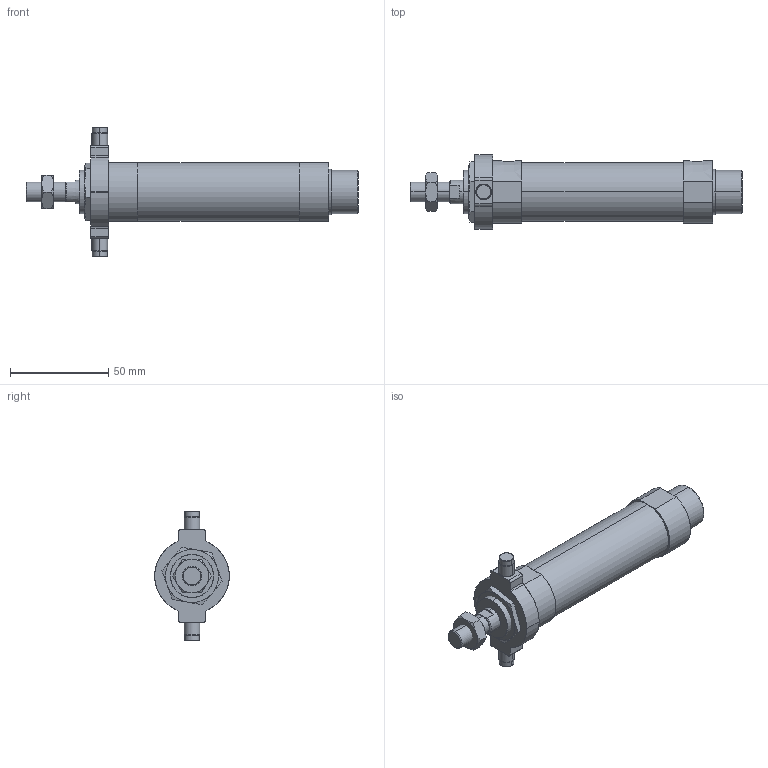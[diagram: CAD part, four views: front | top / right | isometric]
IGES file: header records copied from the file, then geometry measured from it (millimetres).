
Start section: SolidWorks IGES file using analytic representation for surfaces
Global section: file name: C:\Users\Toshiba\Desktop\J#2-25-50-T.IGS; native system: SolidWorks 2014; preprocessor: SolidWorks 2014; author: Toshiba; date: 160308.151210; units: millimetre
Bounding box: 169 x 38 x 66 mm (x, y, z)
Surface area: 22661.8 mm2 (no closed solid volume)
Topology: 0 solids, 0 shells, 136 faces, 2248 edges, 2244 vertices
Faces by surface type: bspline 71, revolution 65
